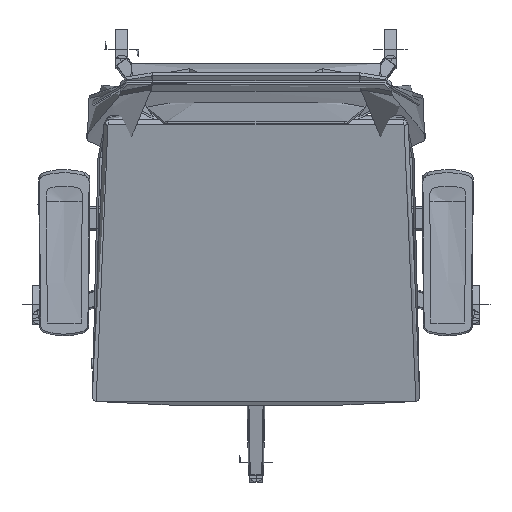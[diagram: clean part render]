
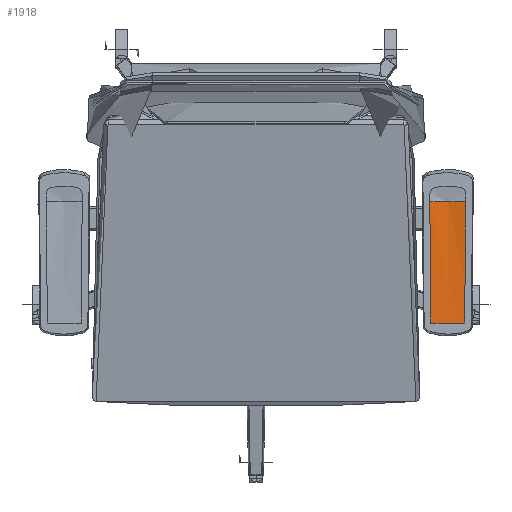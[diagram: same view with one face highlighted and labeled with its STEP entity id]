
A CAD part, top view. The second image highlights one B-rep face of the part: STEP entity #1918.
In plain terms, the highlighted free-form (B-spline) face has degree [3, 2] with [4, 3] control points.
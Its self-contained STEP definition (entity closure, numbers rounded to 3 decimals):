
#278=B_SPLINE_CURVE_WITH_KNOTS('',1,(#15634,#15635),.UNSPECIFIED.,.F.,.F.,
(2,2),(0.,50.276),.UNSPECIFIED.);
#1918=ADVANCED_FACE('',(#2382),#7504,.T.);
#2382=FACE_OUTER_BOUND('',#2846,.T.);
#2846=EDGE_LOOP('',(#4095,#4096,#4097,#4098,#4099));
#4095=ORIENTED_EDGE('',*,*,#5616,.T.);
#4096=ORIENTED_EDGE('',*,*,#5614,.T.);
#4097=ORIENTED_EDGE('',*,*,#5615,.T.);
#4098=ORIENTED_EDGE('',*,*,#5617,.T.);
#4099=ORIENTED_EDGE('',*,*,#5633,.T.);
#5614=EDGE_CURVE('',#7045,#7046,#6479,.T.);
#5615=EDGE_CURVE('',#7046,#7044,#6480,.T.);
#5616=EDGE_CURVE('',#7047,#7045,#6481,.T.);
#5617=EDGE_CURVE('',#7044,#7048,#6482,.T.);
#5633=EDGE_CURVE('',#7048,#7047,#278,.T.);
#6479=(
BOUNDED_CURVE()
B_SPLINE_CURVE(2,(#15559,#15560,#15561),.UNSPECIFIED.,.F.,.F.)
B_SPLINE_CURVE_WITH_KNOTS((3,3),(0.,26.864),.UNSPECIFIED.)
CURVE()
GEOMETRIC_REPRESENTATION_ITEM()
RATIONAL_B_SPLINE_CURVE((1.,0.994,1.))
REPRESENTATION_ITEM('')
);
#6480=(
BOUNDED_CURVE()
B_SPLINE_CURVE(2,(#15562,#15563,#15564),.UNSPECIFIED.,.F.,.F.)
B_SPLINE_CURVE_WITH_KNOTS((3,3),(-26.864,0.),.UNSPECIFIED.)
CURVE()
GEOMETRIC_REPRESENTATION_ITEM()
RATIONAL_B_SPLINE_CURVE((1.,0.994,1.))
REPRESENTATION_ITEM('')
);
#6481=(
BOUNDED_CURVE()
B_SPLINE_CURVE(3,(#15565,#15566,#15567,#15568),.UNSPECIFIED.,.F.,.F.)
B_SPLINE_CURVE_WITH_KNOTS((4,4),(0.,180.167),.UNSPECIFIED.)
CURVE()
GEOMETRIC_REPRESENTATION_ITEM()
RATIONAL_B_SPLINE_CURVE((1.,1.,1.,1.))
REPRESENTATION_ITEM('')
);
#6482=(
BOUNDED_CURVE()
B_SPLINE_CURVE(3,(#15569,#15570,#15571,#15572),.UNSPECIFIED.,.F.,.F.)
B_SPLINE_CURVE_WITH_KNOTS((4,4),(-180.167,0.),.UNSPECIFIED.)
CURVE()
GEOMETRIC_REPRESENTATION_ITEM()
RATIONAL_B_SPLINE_CURVE((1.,1.,1.,1.))
REPRESENTATION_ITEM('')
);
#7044=VERTEX_POINT('',#15531);
#7045=VERTEX_POINT('',#15532);
#7046=VERTEX_POINT('',#15533);
#7047=VERTEX_POINT('',#15534);
#7048=VERTEX_POINT('',#15535);
#7504=(
BOUNDED_SURFACE()
B_SPLINE_SURFACE(3,2,((#15451,#15452,#15453),(#15454,#15455,#15456),(#15457,
#15458,#15459),(#15460,#15461,#15462)),.UNSPECIFIED.,.F.,.F.,.F.)
B_SPLINE_SURFACE_WITH_KNOTS((4,4),(3,3),(0.,180.167),(-53.728,
0.),.UNSPECIFIED.)
GEOMETRIC_REPRESENTATION_ITEM()
RATIONAL_B_SPLINE_SURFACE(((1.,0.975,1.),(1.,0.975,
1.),(1.,0.975,1.),(1.,0.975,1.)))
REPRESENTATION_ITEM('')
SURFACE()
);
#15451=CARTESIAN_POINT('',(309.828,-114.598,705.035));
#15452=CARTESIAN_POINT('',(284.691,-114.598,705.035));
#15453=CARTESIAN_POINT('',(259.553,-114.598,705.035));
#15454=CARTESIAN_POINT('',(310.329,-54.569,703.314));
#15455=CARTESIAN_POINT('',(284.691,-54.567,703.365));
#15456=CARTESIAN_POINT('',(259.052,-54.569,703.314));
#15457=CARTESIAN_POINT('',(310.829,5.46,701.594));
#15458=CARTESIAN_POINT('',(284.691,5.291,695.684));
#15459=CARTESIAN_POINT('',(258.552,5.46,701.594));
#15460=CARTESIAN_POINT('',(311.33,65.489,699.873));
#15461=CARTESIAN_POINT('',(284.691,65.315,693.799));
#15462=CARTESIAN_POINT('',(258.051,65.489,699.873));
#15531=CARTESIAN_POINT('',(258.051,65.489,699.873));
#15532=CARTESIAN_POINT('',(311.33,65.489,699.873));
#15533=CARTESIAN_POINT('',(284.691,65.403,696.875));
#15534=CARTESIAN_POINT('',(309.828,-114.598,705.035));
#15535=CARTESIAN_POINT('',(259.553,-114.598,705.035));
#15559=CARTESIAN_POINT('',(311.33,65.489,699.873));
#15560=CARTESIAN_POINT('',(298.179,65.403,696.875));
#15561=CARTESIAN_POINT('',(284.691,65.403,696.875));
#15562=CARTESIAN_POINT('',(284.691,65.403,696.875));
#15563=CARTESIAN_POINT('',(271.202,65.403,696.875));
#15564=CARTESIAN_POINT('',(258.051,65.489,699.873));
#15565=CARTESIAN_POINT('',(309.828,-114.598,705.035));
#15566=CARTESIAN_POINT('',(310.329,-54.569,703.314));
#15567=CARTESIAN_POINT('',(310.829,5.46,701.594));
#15568=CARTESIAN_POINT('',(311.33,65.489,699.873));
#15569=CARTESIAN_POINT('',(258.051,65.489,699.873));
#15570=CARTESIAN_POINT('',(258.552,5.46,701.594));
#15571=CARTESIAN_POINT('',(259.052,-54.569,703.314));
#15572=CARTESIAN_POINT('',(259.553,-114.598,705.035));
#15634=CARTESIAN_POINT('',(259.553,-114.598,705.035));
#15635=CARTESIAN_POINT('',(309.828,-114.598,705.035));
